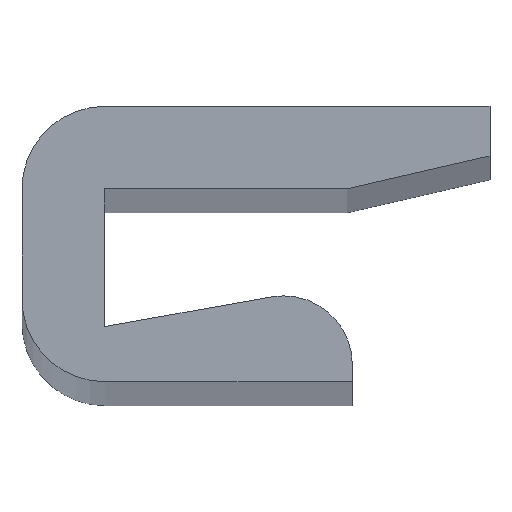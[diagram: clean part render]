
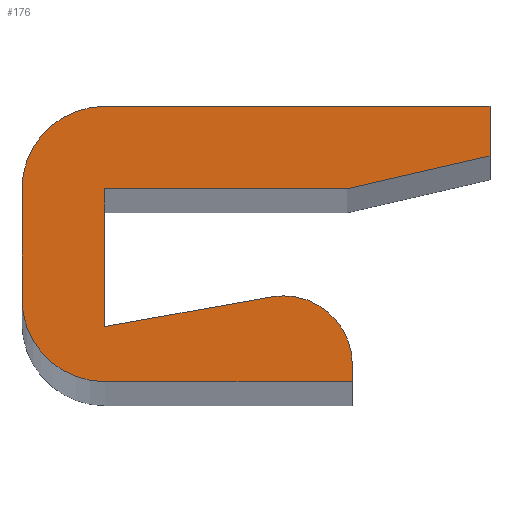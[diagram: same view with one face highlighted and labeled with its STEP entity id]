
A CAD part, top view. The second image highlights one B-rep face of the part: STEP entity #176.
In plain terms, the highlighted planar face has unit normal (0, 0, 1).
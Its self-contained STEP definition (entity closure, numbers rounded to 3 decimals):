
#1 = VERTEX_POINT ( 'NONE', #158 ) ;
#3 = VERTEX_POINT ( 'NONE', #154 ) ;
#15 = VERTEX_POINT ( 'NONE', #234 ) ;
#20 = EDGE_CURVE ( 'NONE', #134, #3, #224, .T. ) ;
#22 = EDGE_CURVE ( 'NONE', #3, #1, #240, .T. ) ;
#27 = VERTEX_POINT ( 'NONE', #215 ) ;
#34 = EDGE_CURVE ( 'NONE', #15, #55, #223, .T. ) ;
#47 = EDGE_CURVE ( 'NONE', #27, #15, #245, .T. ) ;
#55 = VERTEX_POINT ( 'NONE', #293 ) ;
#57 = VERTEX_POINT ( 'NONE', #139 ) ;
#62 = EDGE_CURVE ( 'NONE', #69, #64, #123, .T. ) ;
#64 = VERTEX_POINT ( 'NONE', #386 ) ;
#69 = VERTEX_POINT ( 'NONE', #381 ) ;
#71 = EDGE_CURVE ( 'NONE', #1, #57, #383, .T. ) ;
#79 = VERTEX_POINT ( 'NONE', #438 ) ;
#87 = EDGE_CURVE ( 'NONE', #112, #89, #436, .T. ) ;
#89 = VERTEX_POINT ( 'NONE', #384 ) ;
#97 = EDGE_CURVE ( 'NONE', #89, #69, #347, .T. ) ;
#102 = EDGE_CURVE ( 'NONE', #64, #79, #449, .T. ) ;
#107 = EDGE_CURVE ( 'NONE', #79, #27, #343, .T. ) ;
#112 = VERTEX_POINT ( 'NONE', #336 ) ;
#116 = EDGE_CURVE ( 'NONE', #57, #112, #366, .T. ) ;
#122 = CARTESIAN_POINT ( 'NONE',  ( 8.802, 5., 0. ) ) ;
#123 = LINE ( 'NONE', #122, #142 ) ;
#134 = VERTEX_POINT ( 'NONE', #359 ) ;
#135 = EDGE_CURVE ( 'NONE', #55, #134, #369, .T. ) ;
#139 = CARTESIAN_POINT ( 'NONE',  ( -3., 5., 0. ) ) ;
#141 = DIRECTION ( 'NONE',  ( -0.974, -0.225, 0. ) ) ;
#142 = VECTOR ( 'NONE', #141, 1000. ) ;
#154 = CARTESIAN_POINT ( 'NONE',  ( 0., -2., 0. ) ) ;
#158 = CARTESIAN_POINT ( 'NONE',  ( -3., 1., 0. ) ) ;
#166 = DIRECTION ( 'NONE',  ( -1., 0., 0. ) ) ;
#167 = DIRECTION ( 'NONE',  ( 0., 0., -1. ) ) ;
#168 = AXIS2_PLACEMENT_3D ( 'NONE', #182, #167, #166 ) ;
#176 = ADVANCED_FACE ( 'NONE', ( #368 ), #414, .F. ) ;
#177 = ORIENTED_EDGE ( 'NONE', *, *, #71, .F. ) ;
#178 = ORIENTED_EDGE ( 'NONE', *, *, #22, .F. ) ;
#179 = ORIENTED_EDGE ( 'NONE', *, *, #107, .F. ) ;
#182 = CARTESIAN_POINT ( 'NONE',  ( 6.5, -1.384, 0. ) ) ;
#192 = DIRECTION ( 'NONE',  ( -1., 0., 0. ) ) ;
#193 = AXIS2_PLACEMENT_3D ( 'NONE', #228, #214, #192 ) ;
#199 = ORIENTED_EDGE ( 'NONE', *, *, #34, .F. ) ;
#200 = EDGE_LOOP ( 'NONE', ( #206, #179, #277, #279, #278, #208, #276, #177, #178, #207, #209, #199 ) ) ;
#206 = ORIENTED_EDGE ( 'NONE', *, *, #47, .F. ) ;
#207 = ORIENTED_EDGE ( 'NONE', *, *, #20, .F. ) ;
#208 = ORIENTED_EDGE ( 'NONE', *, *, #87, .F. ) ;
#209 = ORIENTED_EDGE ( 'NONE', *, *, #135, .F. ) ;
#214 = DIRECTION ( 'NONE',  ( 0., 0., -1. ) ) ;
#215 = CARTESIAN_POINT ( 'NONE',  ( 0., 0., 0. ) ) ;
#218 = DIRECTION ( 'NONE',  ( -1., 0., 0. ) ) ;
#223 = CIRCLE ( 'NONE', #168, 2.5 ) ;
#224 = LINE ( 'NONE', #231, #230 ) ;
#228 = CARTESIAN_POINT ( 'NONE',  ( 0., 1., 0. ) ) ;
#230 = VECTOR ( 'NONE', #218, 1000. ) ;
#231 = CARTESIAN_POINT ( 'NONE',  ( 0., -2., 0. ) ) ;
#234 = CARTESIAN_POINT ( 'NONE',  ( 6.062, 1.078, 0. ) ) ;
#240 = CIRCLE ( 'NONE', #193, 3. ) ;
#245 = LINE ( 'NONE', #274, #300 ) ;
#274 = CARTESIAN_POINT ( 'NONE',  ( 6.062, 1.078, 0. ) ) ;
#276 = ORIENTED_EDGE ( 'NONE', *, *, #116, .F. ) ;
#277 = ORIENTED_EDGE ( 'NONE', *, *, #102, .F. ) ;
#278 = ORIENTED_EDGE ( 'NONE', *, *, #97, .F. ) ;
#279 = ORIENTED_EDGE ( 'NONE', *, *, #62, .F. ) ;
#293 = CARTESIAN_POINT ( 'NONE',  ( 9., -1.384, 0. ) ) ;
#299 = DIRECTION ( 'NONE',  ( 0.985, 0.175, 0. ) ) ;
#300 = VECTOR ( 'NONE', #299, 1000. ) ;
#316 = DIRECTION ( 'NONE',  ( 0., 1., 0. ) ) ;
#319 = VECTOR ( 'NONE', #316, 1000. ) ;
#329 = DIRECTION ( 'NONE',  ( 0., -1., 0. ) ) ;
#330 = VECTOR ( 'NONE', #329, 1000. ) ;
#331 = CARTESIAN_POINT ( 'NONE',  ( 0., 0., 0. ) ) ;
#336 = CARTESIAN_POINT ( 'NONE',  ( 0., 8., 0. ) ) ;
#338 = DIRECTION ( 'NONE',  ( -1., 0., 0. ) ) ;
#339 = VECTOR ( 'NONE', #338, 1000. ) ;
#340 = CARTESIAN_POINT ( 'NONE',  ( 0., 5., 0. ) ) ;
#343 = LINE ( 'NONE', #331, #330 ) ;
#344 = DIRECTION ( 'NONE',  ( 0., -1., 0. ) ) ;
#345 = VECTOR ( 'NONE', #344, 1000. ) ;
#346 = CARTESIAN_POINT ( 'NONE',  ( 14., 6.2, 0. ) ) ;
#347 = LINE ( 'NONE', #346, #345 ) ;
#351 = AXIS2_PLACEMENT_3D ( 'NONE', #376, #375, #374 ) ;
#359 = CARTESIAN_POINT ( 'NONE',  ( 9., -2., 0. ) ) ;
#366 = CIRCLE ( 'NONE', #351, 3. ) ;
#368 = FACE_OUTER_BOUND ( 'NONE', #200, .T. ) ;
#369 = LINE ( 'NONE', #408, #407 ) ;
#374 = DIRECTION ( 'NONE',  ( -1., 0., 0. ) ) ;
#375 = DIRECTION ( 'NONE',  ( 0., 0., -1. ) ) ;
#376 = CARTESIAN_POINT ( 'NONE',  ( 0., 5., 0. ) ) ;
#381 = CARTESIAN_POINT ( 'NONE',  ( 14., 6.2, 0. ) ) ;
#382 = CARTESIAN_POINT ( 'NONE',  ( -3., 5., 0. ) ) ;
#383 = LINE ( 'NONE', #382, #319 ) ;
#384 = CARTESIAN_POINT ( 'NONE',  ( 14., 8., 0. ) ) ;
#385 = DIRECTION ( 'NONE',  ( 1., 0., 0. ) ) ;
#386 = CARTESIAN_POINT ( 'NONE',  ( 8.802, 5., 0. ) ) ;
#404 = AXIS2_PLACEMENT_3D ( 'NONE', #428, #427, #426 ) ;
#406 = DIRECTION ( 'NONE',  ( 0., -1., 0. ) ) ;
#407 = VECTOR ( 'NONE', #406, 1000. ) ;
#408 = CARTESIAN_POINT ( 'NONE',  ( 9., -2., 0. ) ) ;
#414 = PLANE ( 'NONE',  #404 ) ;
#426 = DIRECTION ( 'NONE',  ( -1., 0., 0. ) ) ;
#427 = DIRECTION ( 'NONE',  ( 0., 0., -1. ) ) ;
#428 = CARTESIAN_POINT ( 'NONE',  ( 0., 5., 0. ) ) ;
#434 = VECTOR ( 'NONE', #385, 1000. ) ;
#435 = CARTESIAN_POINT ( 'NONE',  ( 14., 8., 0. ) ) ;
#436 = LINE ( 'NONE', #435, #434 ) ;
#438 = CARTESIAN_POINT ( 'NONE',  ( 0., 5., 0. ) ) ;
#449 = LINE ( 'NONE', #340, #339 ) ;
